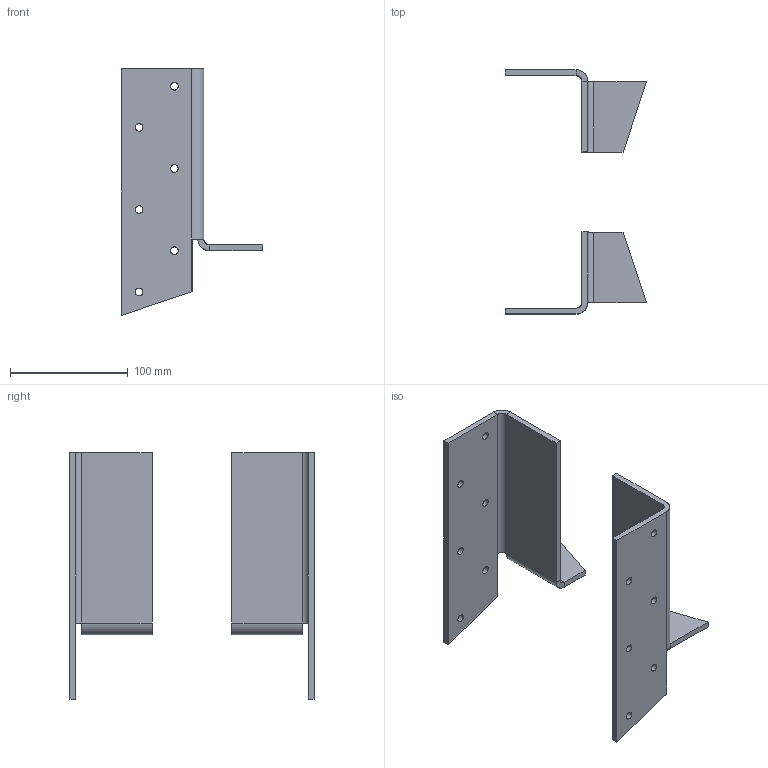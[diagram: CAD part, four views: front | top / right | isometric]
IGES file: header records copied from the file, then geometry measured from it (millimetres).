
Start section: SolidWorks IGES file using analytic representation for surfaces
Global section: file name: C:\Users\cbrechard\Desktop\PE 374 DBR et GBR.IGS; native system: SolidWorks 2017; preprocessor: SolidWorks 2017; author: cbrechard; date: 191025.144506; units: millimetre
Bounding box: 120 x 207.94 x 210 mm (x, y, z)
Surface area: 108925.4 mm2 (no closed solid volume)
Topology: 0 solids, 0 shells, 68 faces, 1160 edges, 1160 vertices
Faces by surface type: bspline 36, revolution 32
